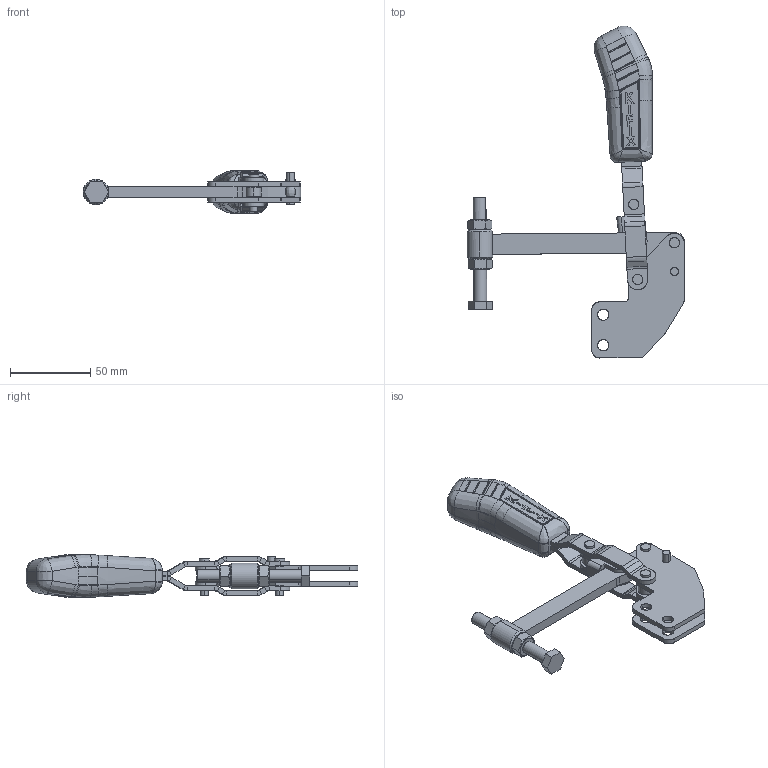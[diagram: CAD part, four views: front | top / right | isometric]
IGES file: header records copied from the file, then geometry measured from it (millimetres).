
Start section: SolidWorks IGES file using analytic representation for surfaces
Global section: file name: C:\Projetos\Grampos\KF-211\KF-211 RS\KF-211 RS.IGS; native system: SolidWorks 2013; preprocessor: SolidWorks 2013; author: Ricardo; date: 140731.105021; units: millimetre
Bounding box: 136.04 x 207.31 x 27.02 mm (x, y, z)
Surface area: 47766 mm2 (no closed solid volume)
Topology: 0 solids, 0 shells, 684 faces, 7397 edges, 7384 vertices
Faces by surface type: bspline 428, revolution 256
